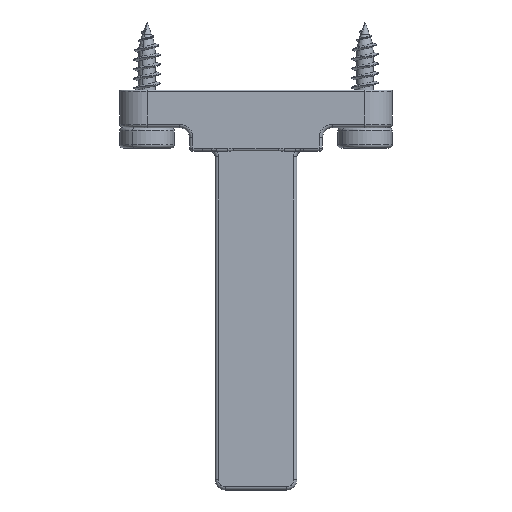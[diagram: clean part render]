
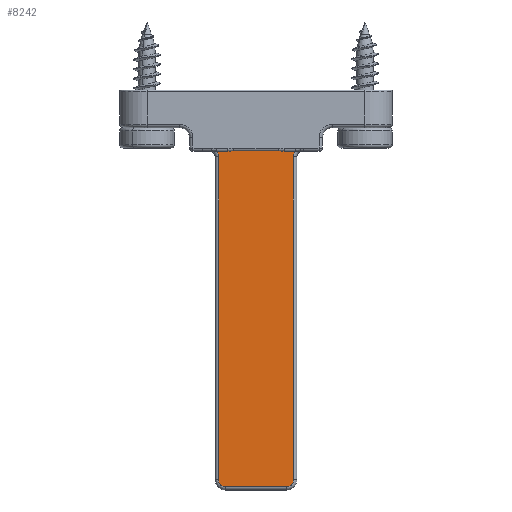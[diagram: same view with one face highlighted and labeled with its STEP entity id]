
A CAD part, left-side view. The second image highlights one B-rep face of the part: STEP entity #8242.
In plain terms, the highlighted planar face has unit normal (-1, 0, 0).
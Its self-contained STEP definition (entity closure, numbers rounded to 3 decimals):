
#66 = DIRECTION ( 'NONE',  ( 1., 0., 0. ) ) ;
#86 = LINE ( 'NONE', #7738, #4615 ) ;
#116 = ORIENTED_EDGE ( 'NONE', *, *, #5002, .T. ) ;
#153 = CARTESIAN_POINT ( 'NONE',  ( -3.8, -0.022, 42. ) ) ;
#283 = EDGE_CURVE ( 'NONE', #7982, #2563, #996, .T. ) ;
#477 = ORIENTED_EDGE ( 'NONE', *, *, #7289, .T. ) ;
#589 = VECTOR ( 'NONE', #3046, 1000. ) ;
#696 = ORIENTED_EDGE ( 'NONE', *, *, #2132, .T. ) ;
#855 = VERTEX_POINT ( 'NONE', #5629 ) ;
#996 = CIRCLE ( 'NONE', #10745, 1.3 ) ;
#1072 = CARTESIAN_POINT ( 'NONE',  ( -3.8, -24., -14. ) ) ;
#1312 = CARTESIAN_POINT ( 'NONE',  ( -3.8, 4.947, 42. ) ) ;
#1325 = CARTESIAN_POINT ( 'NONE',  ( -3.8, 0.5, -6.2 ) ) ;
#1554 = EDGE_CURVE ( 'NONE', #2563, #10675, #1941, .T. ) ;
#1796 = DIRECTION ( 'NONE',  ( 0., -1., 0. ) ) ;
#1867 = LINE ( 'NONE', #10367, #10627 ) ;
#1941 = LINE ( 'NONE', #6067, #8691 ) ;
#2011 = ORIENTED_EDGE ( 'NONE', *, *, #6499, .T. ) ;
#2132 = EDGE_CURVE ( 'NONE', #855, #11017, #5268, .T. ) ;
#2194 = DIRECTION ( 'NONE',  ( 0., 0., -1. ) ) ;
#2317 = LINE ( 'NONE', #5489, #6847 ) ;
#2468 = VECTOR ( 'NONE', #8163, 1000. ) ;
#2522 = CARTESIAN_POINT ( 'NONE',  ( -3.8, 1.775, 42. ) ) ;
#2544 = EDGE_LOOP ( 'NONE', ( #8704, #9366, #116, #10702, #696, #2011, #477, #3131, #11005, #6862, #5681, #7105 ) ) ;
#2563 = VERTEX_POINT ( 'NONE', #8360 ) ;
#2619 = VERTEX_POINT ( 'NONE', #8126 ) ;
#2679 = CARTESIAN_POINT ( 'NONE',  ( -3.8, -0.568, 42.1 ) ) ;
#2790 = PLANE ( 'NONE',  #3732 ) ;
#2792 = EDGE_CURVE ( 'NONE', #7982, #8427, #2317, .T. ) ;
#2840 = CARTESIAN_POINT ( 'NONE',  ( -3.8, -8.118, 42. ) ) ;
#2953 = CARTESIAN_POINT ( 'NONE',  ( -3.8, 1.5, -6.2 ) ) ;
#3046 = DIRECTION ( 'NONE',  ( 0., -1., 0. ) ) ;
#3131 = ORIENTED_EDGE ( 'NONE', *, *, #2792, .F. ) ;
#3194 = AXIS2_PLACEMENT_3D ( 'NONE', #4180, #10079, #5028 ) ;
#3254 = CARTESIAN_POINT ( 'NONE',  ( -3.8, -7.842, 42.026 ) ) ;
#3412 = CARTESIAN_POINT ( 'NONE',  ( -3.8, -7.568, 42.077 ) ) ;
#3443 = FACE_OUTER_BOUND ( 'NONE', #2544, .T. ) ;
#3660 = EDGE_CURVE ( 'NONE', #855, #2619, #7627, .T. ) ;
#3664 = DIRECTION ( 'NONE',  ( 0., 0., -1. ) ) ;
#3732 = AXIS2_PLACEMENT_3D ( 'NONE', #1072, #8686, #3664 ) ;
#3758 = CARTESIAN_POINT ( 'NONE',  ( -3.8, -7.432, 42.1 ) ) ;
#4180 = CARTESIAN_POINT ( 'NONE',  ( -3.8, -8.5, -6.2 ) ) ;
#4188 = VERTEX_POINT ( 'NONE', #9302 ) ;
#4277 = VERTEX_POINT ( 'NONE', #8537 ) ;
#4615 = VECTOR ( 'NONE', #1796, 1000. ) ;
#4665 = CARTESIAN_POINT ( 'NONE',  ( -3.8, 0.5, -7.2 ) ) ;
#4745 = LINE ( 'NONE', #7314, #2468 ) ;
#4748 = CARTESIAN_POINT ( 'NONE',  ( -3.8, -9.5, -6.2 ) ) ;
#4828 = CIRCLE ( 'NONE', #8698, 1.3 ) ;
#5002 = EDGE_CURVE ( 'NONE', #4277, #2619, #4828, .T. ) ;
#5028 = DIRECTION ( 'NONE',  ( 0., 0., -1. ) ) ;
#5054 = CIRCLE ( 'NONE', #7302, 1. ) ;
#5197 = CARTESIAN_POINT ( 'NONE',  ( -3.8, -10.8, 41.2 ) ) ;
#5233 = CARTESIAN_POINT ( 'NONE',  ( -3.8, -7.292, 42.1 ) ) ;
#5268 = B_SPLINE_CURVE_WITH_KNOTS ( 'NONE', 3,
 ( #2840, #7878, #3254, #3412, #3758, #5233 ),
 .UNSPECIFIED., .F., .F.,
 ( 4, 2, 4 ),
 ( 0., 0., 0.001 ),
 .UNSPECIFIED. ) ;
#5270 = CARTESIAN_POINT ( 'NONE',  ( -3.8, -0.158, 42.026 ) ) ;
#5305 = DIRECTION ( 'NONE',  ( 0., 1., 0. ) ) ;
#5462 = DIRECTION ( 'NONE',  ( 0., -1., 0. ) ) ;
#5489 = CARTESIAN_POINT ( 'NONE',  ( -3.8, 4.947, 42. ) ) ;
#5590 = EDGE_CURVE ( 'NONE', #4188, #10773, #10935, .T. ) ;
#5629 = CARTESIAN_POINT ( 'NONE',  ( -3.8, -8.118, 42. ) ) ;
#5681 = ORIENTED_EDGE ( 'NONE', *, *, #7887, .T. ) ;
#5966 = VERTEX_POINT ( 'NONE', #4665 ) ;
#6047 = DIRECTION ( 'NONE',  ( 0., 0., -1. ) ) ;
#6067 = CARTESIAN_POINT ( 'NONE',  ( -3.8, 1.5, -14. ) ) ;
#6115 = DIRECTION ( 'NONE',  ( 0., 0., -1. ) ) ;
#6123 = CARTESIAN_POINT ( 'NONE',  ( -3.8, 0.118, 42. ) ) ;
#6499 = EDGE_CURVE ( 'NONE', #11017, #9960, #1867, .T. ) ;
#6847 = VECTOR ( 'NONE', #5462, 1000. ) ;
#6862 = ORIENTED_EDGE ( 'NONE', *, *, #1554, .T. ) ;
#7105 = ORIENTED_EDGE ( 'NONE', *, *, #9383, .T. ) ;
#7263 = DIRECTION ( 'NONE',  ( -1., 0., 0. ) ) ;
#7289 = EDGE_CURVE ( 'NONE', #9960, #8427, #9473, .T. ) ;
#7302 = AXIS2_PLACEMENT_3D ( 'NONE', #1325, #7263, #2194 ) ;
#7314 = CARTESIAN_POINT ( 'NONE',  ( -3.8, -9.5, -14. ) ) ;
#7627 = LINE ( 'NONE', #1312, #589 ) ;
#7738 = CARTESIAN_POINT ( 'NONE',  ( -3.8, -8.5, -7.2 ) ) ;
#7878 = CARTESIAN_POINT ( 'NONE',  ( -3.8, -7.978, 42. ) ) ;
#7887 = EDGE_CURVE ( 'NONE', #10675, #5966, #5054, .T. ) ;
#7982 = VERTEX_POINT ( 'NONE', #2522 ) ;
#8085 = CARTESIAN_POINT ( 'NONE',  ( -3.8, 0.118, 42. ) ) ;
#8126 = CARTESIAN_POINT ( 'NONE',  ( -3.8, -9.775, 42. ) ) ;
#8163 = DIRECTION ( 'NONE',  ( 0., 0., 1. ) ) ;
#8242 = ADVANCED_FACE ( 'NONE', ( #3443 ), #2790, .F. ) ;
#8340 = CARTESIAN_POINT ( 'NONE',  ( -3.8, -7.292, 42.1 ) ) ;
#8360 = CARTESIAN_POINT ( 'NONE',  ( -3.8, 1.5, 41.2 ) ) ;
#8427 = VERTEX_POINT ( 'NONE', #8085 ) ;
#8537 = CARTESIAN_POINT ( 'NONE',  ( -3.8, -9.5, 41.2 ) ) ;
#8588 = CARTESIAN_POINT ( 'NONE',  ( -3.8, -0.432, 42.077 ) ) ;
#8686 = DIRECTION ( 'NONE',  ( 1., 0., 0. ) ) ;
#8691 = VECTOR ( 'NONE', #6115, 1000. ) ;
#8698 = AXIS2_PLACEMENT_3D ( 'NONE', #5197, #66, #6047 ) ;
#8704 = ORIENTED_EDGE ( 'NONE', *, *, #5590, .T. ) ;
#8943 = EDGE_CURVE ( 'NONE', #10773, #4277, #4745, .T. ) ;
#9268 = CARTESIAN_POINT ( 'NONE',  ( -3.8, -0.708, 42.1 ) ) ;
#9302 = CARTESIAN_POINT ( 'NONE',  ( -3.8, -8.5, -7.2 ) ) ;
#9326 = CARTESIAN_POINT ( 'NONE',  ( -3.8, 2.8, 41.2 ) ) ;
#9366 = ORIENTED_EDGE ( 'NONE', *, *, #8943, .T. ) ;
#9383 = EDGE_CURVE ( 'NONE', #5966, #4188, #86, .T. ) ;
#9463 = DIRECTION ( 'NONE',  ( 1., 0., 0. ) ) ;
#9473 = B_SPLINE_CURVE_WITH_KNOTS ( 'NONE', 3,
 ( #10331, #2679, #8588, #5270, #153, #6123 ),
 .UNSPECIFIED., .F., .F.,
 ( 4, 2, 4 ),
 ( 0., 0., 0.001 ),
 .UNSPECIFIED. ) ;
#9731 = DIRECTION ( 'NONE',  ( 0., 0., -1. ) ) ;
#9960 = VERTEX_POINT ( 'NONE', #9268 ) ;
#10079 = DIRECTION ( 'NONE',  ( -1., 0., 0. ) ) ;
#10331 = CARTESIAN_POINT ( 'NONE',  ( -3.8, -0.708, 42.1 ) ) ;
#10367 = CARTESIAN_POINT ( 'NONE',  ( -3.8, 18., 42.1 ) ) ;
#10627 = VECTOR ( 'NONE', #5305, 1000. ) ;
#10675 = VERTEX_POINT ( 'NONE', #2953 ) ;
#10702 = ORIENTED_EDGE ( 'NONE', *, *, #3660, .F. ) ;
#10745 = AXIS2_PLACEMENT_3D ( 'NONE', #9326, #9463, #9731 ) ;
#10773 = VERTEX_POINT ( 'NONE', #4748 ) ;
#10935 = CIRCLE ( 'NONE', #3194, 1. ) ;
#11005 = ORIENTED_EDGE ( 'NONE', *, *, #283, .T. ) ;
#11017 = VERTEX_POINT ( 'NONE', #8340 ) ;
